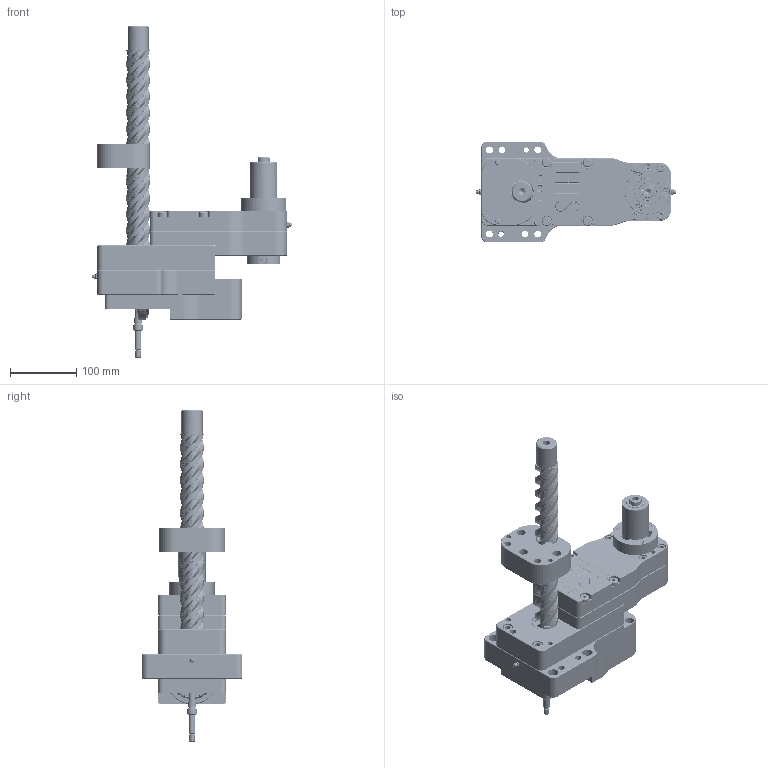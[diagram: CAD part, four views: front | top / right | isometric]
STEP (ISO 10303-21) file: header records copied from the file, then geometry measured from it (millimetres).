
FILE_DESCRIPTION( ( 'Unknown' ), '1' );
FILE_NAME( 'C:/Users/Hess Design 1/Desktop/New folder/6000-000-4instrk.stp', 'Unknown', ( 'Unknown' ), ( 'Unknown' ), 'PSStep 14.0', 'Unknown', ' ' );
FILE_SCHEMA( ( 'AUTOMOTIVE_DESIGN { 1 0 10303 214 1 1 1 1 }' ) );
Length unit declared in the file: millimetre
Products named in the file (38): Assem1; 6011-004 - Copy; 6023-1_4-20; 6020-013; 6047-000; 6045-000; 6044-000; 6035-000; 6025-000; 6034-000; 6017-000; 6012-000_0; 6014A-000_0; 6014B-000_0; 6018-000; 6016-000; 6022-M8x125_0; 6006A-000; 6007A-000; 6007B-000; 6008-000_0; 6021-000; 6019-000; 6028-000; 6036-000; 6006B-000
Bounding box: 302 x 152.4 x 501.65 mm (x, y, z)
Volume: 6141794.5 mm3; surface area: 1062674.6 mm2
Topology: 90 solids, 92 shells, 4196 faces, 12666 edges, 8734 vertices
Faces by surface type: plane 1405, cylinder 1205, cone 776, bspline 608, torus 116, extrusion 56, sphere 30
Full cylindrical faces by diameter (mm): 1.587 x6, 2.381 x8, 3.454 x12, 4.039 x12, 4.178 x108, 4.216 x8, 4.826 x104, 5.004 x2, 5.613 x6, 5.954 x4, 6.172 x5, 6.35 x14, 6.477 x2, 6.528 x26, 6.805 x6, 7.142 x4, 7.805 x4, 7.925 x4, 7.938 x50, 8.733 x12, 8.941 x5, 9.058 x2, 9.525 x41, 9.779 x5, 9.906 x2, 10.317 x12, 10.319 x14, 10.584 x4, 10.719 x4, 11.906 x5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
Entity records: 174289 total; most frequent: CARTESIAN_POINT 119294, ORIENTED_EDGE 8998, DIRECTION 6837, EDGE_CURVE 4499, VERTEX_POINT 3223, AXIS2_PLACEMENT_3D 2702, EDGE_LOOP 2505, FACE_OUTER_BOUND 2063
